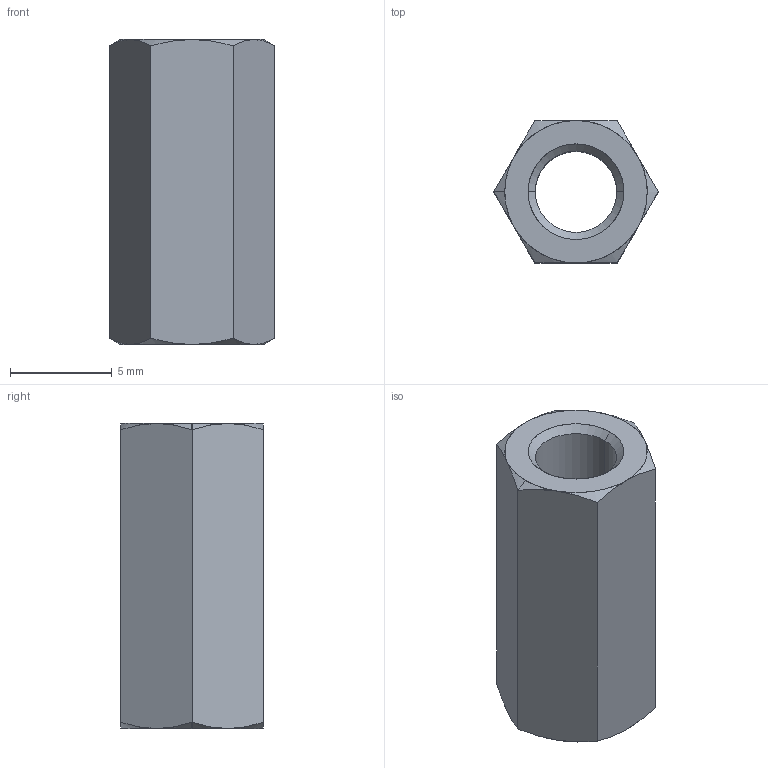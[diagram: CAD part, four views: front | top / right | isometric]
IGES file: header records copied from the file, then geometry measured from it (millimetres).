
Start section: SolidWorks IGES file using analytic representation for surfaces
Global section: file name: C:\Users\ianosborn\Desktop\N0503.NP_v2\N0503.NP_v2_20250227_IGES\N0503.040-015-NP.igs; native system: SolidWorks 2019; preprocessor: SolidWorks 2019; author: IanOsborn; date: 250227.144248; units: millimetre
Bounding box: 8.08 x 7 x 15 mm (x, y, z)
Surface area: 603.2 mm2 (no closed solid volume)
Topology: 0 solids, 0 shells, 28 faces, 286 edges, 286 vertices
Faces by surface type: revolution 20, bspline 8
